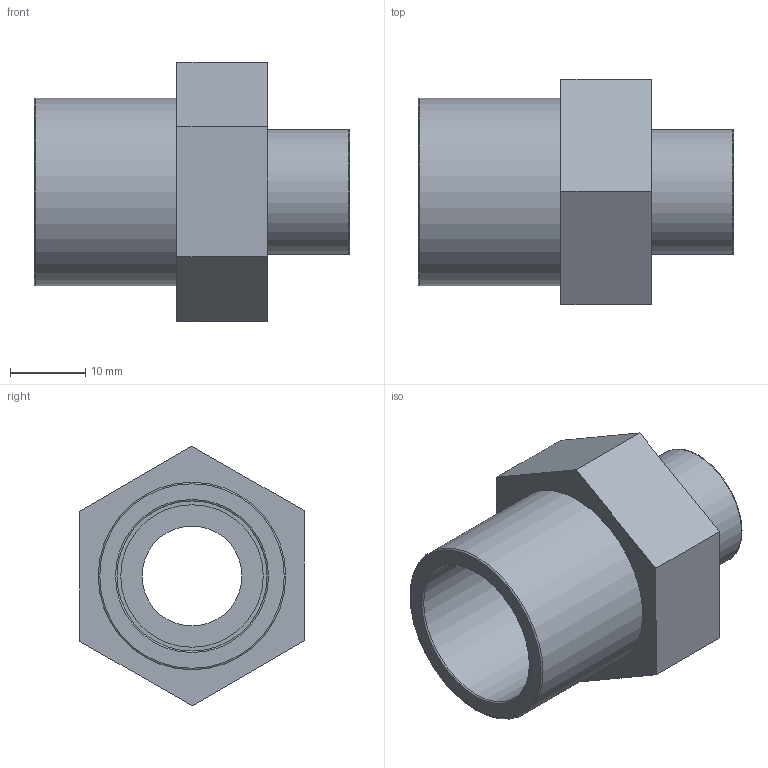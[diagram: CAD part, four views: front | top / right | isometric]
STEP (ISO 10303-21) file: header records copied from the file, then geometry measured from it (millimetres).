
FILE_DESCRIPTION(/* description */ ('PLASSON BUSHING ADAP. THR-CEM 20(25)-3/8"'),/* implementation_level */ '2;1');
FILE_NAME(/* name */ 'C:\Dropbox\KIMPROJECTS-Inventor\99-16-3568-Processing\PVC Catalog 2017\052202\052202020003.ipt.stp',/* time_stamp */ '2017-12-07T16:02:30+02:00',/* author */ ('KIM'),/* organization */ (''),/* preprocessor_version */ 'ST-DEVELOPER v15.6',/* originating_system */ 'Autodesk Inventor 2015',/* authorisation */ '');
FILE_SCHEMA (('AUTOMOTIVE_DESIGN { 1 0 10303 214 3 1 1 }'));
Length unit declared in the file: millimetre
Products named in the file (1): 052202020003
Bounding box: 42 x 30.06 x 34.64 mm (x, y, z)
Volume: 10578.4 mm3; surface area: 6896.8 mm2
Topology: 1 solids, 1 shells, 21 faces, 41 edges, 26 vertices
Faces by surface type: plane 12, cylinder 5, torus 4
Full cylindrical faces by diameter (mm): 13.33 x1, 16.662 x1, 19 x1, 20 x1, 25 x1
Entity records: 520 total; most frequent: DIRECTION 90, CARTESIAN_POINT 80, ORIENTED_EDGE 64, EDGE_LOOP 36, AXIS2_PLACEMENT_3D 36, EDGE_CURVE 32, VERTEX_POINT 26, FACE_OUTER_BOUND 21
